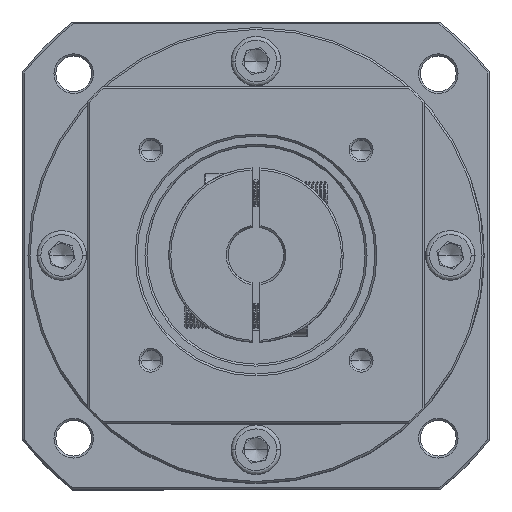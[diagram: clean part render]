
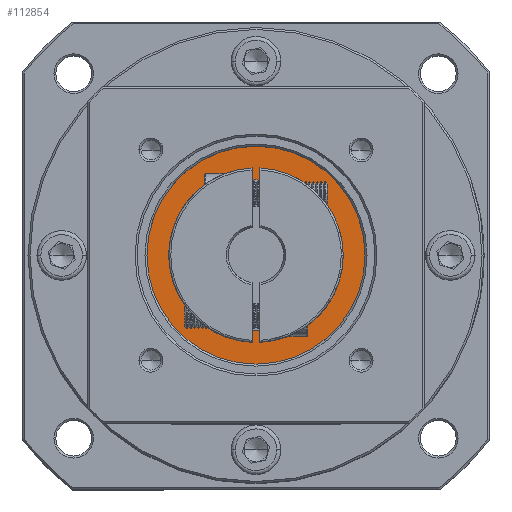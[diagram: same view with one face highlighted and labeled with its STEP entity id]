
A CAD part, top view. The second image highlights one B-rep face of the part: STEP entity #112854.
In plain terms, the highlighted planar face has unit normal (0, 0, 1).
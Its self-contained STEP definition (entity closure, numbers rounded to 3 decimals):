
#1186 = DIRECTION ( 'NONE',  ( -1., 0., 0. ) ) ;
#1551 = VERTEX_POINT ( 'NONE', #15643 ) ;
#4653 = DIRECTION ( 'NONE',  ( -1., 0., 0. ) ) ;
#7648 = FACE_BOUND ( 'NONE', #15300, .T. ) ;
#9426 = AXIS2_PLACEMENT_3D ( 'NONE', #39943, #101386, #48721 ) ;
#10443 = FACE_OUTER_BOUND ( 'NONE', #52240, .T. ) ;
#11777 = AXIS2_PLACEMENT_3D ( 'NONE', #46671, #108167, #55530 ) ;
#13496 = EDGE_CURVE ( 'NONE', #40248, #84520, #40742, .T. ) ;
#15300 = EDGE_LOOP ( 'NONE', ( #90001, #57959 ) ) ;
#15643 = CARTESIAN_POINT ( 'NONE',  ( -117.764, 35.48, 12.448 ) ) ;
#23372 = DIRECTION ( 'NONE',  ( 0., 0., 1. ) ) ;
#24941 = CIRCLE ( 'NONE', #96702, 27.5 ) ;
#29658 = EDGE_CURVE ( 'NONE', #46325, #1551, #73201, .T. ) ;
#34007 = EDGE_CURVE ( 'NONE', #1551, #46325, #24941, .T. ) ;
#39943 = CARTESIAN_POINT ( 'NONE',  ( -90.264, 35.48, 12.448 ) ) ;
#40248 = VERTEX_POINT ( 'NONE', #46914 ) ;
#40742 = CIRCLE ( 'NONE', #11777, 19. ) ;
#41569 = AXIS2_PLACEMENT_3D ( 'NONE', #75960, #23372, #84882 ) ;
#46325 = VERTEX_POINT ( 'NONE', #57347 ) ;
#46671 = CARTESIAN_POINT ( 'NONE',  ( -90.264, 35.48, 12.448 ) ) ;
#46914 = CARTESIAN_POINT ( 'NONE',  ( -71.264, 35.48, 12.448 ) ) ;
#48721 = DIRECTION ( 'NONE',  ( -1., 0., 0. ) ) ;
#50534 = EDGE_CURVE ( 'NONE', #84520, #40248, #73161, .T. ) ;
#52240 = EDGE_LOOP ( 'NONE', ( #92538, #55727 ) ) ;
#53823 = DIRECTION ( 'NONE',  ( 0., 0., -1. ) ) ;
#55530 = DIRECTION ( 'NONE',  ( -1., 0., 0. ) ) ;
#55727 = ORIENTED_EDGE ( 'NONE', *, *, #29658, .T. ) ;
#57313 = DIRECTION ( 'NONE',  ( 0., 0., 1. ) ) ;
#57347 = CARTESIAN_POINT ( 'NONE',  ( -62.764, 35.48, 12.448 ) ) ;
#57959 = ORIENTED_EDGE ( 'NONE', *, *, #13496, .T. ) ;
#58299 = AXIS2_PLACEMENT_3D ( 'NONE', #106486, #53823, #1186 ) ;
#73161 = CIRCLE ( 'NONE', #58299, 19. ) ;
#73201 = CIRCLE ( 'NONE', #9426, 27.5 ) ;
#75960 = CARTESIAN_POINT ( 'NONE',  ( -90.264, 35.48, 12.448 ) ) ;
#84520 = VERTEX_POINT ( 'NONE', #89301 ) ;
#84882 = DIRECTION ( 'NONE',  ( 1., 0., 0. ) ) ;
#89301 = CARTESIAN_POINT ( 'NONE',  ( -109.264, 35.48, 12.448 ) ) ;
#90001 = ORIENTED_EDGE ( 'NONE', *, *, #50534, .T. ) ;
#92538 = ORIENTED_EDGE ( 'NONE', *, *, #34007, .T. ) ;
#93286 = PLANE ( 'NONE',  #41569 ) ;
#96702 = AXIS2_PLACEMENT_3D ( 'NONE', #109875, #57313, #4653 ) ;
#101386 = DIRECTION ( 'NONE',  ( 0., 0., 1. ) ) ;
#106486 = CARTESIAN_POINT ( 'NONE',  ( -90.264, 35.48, 12.448 ) ) ;
#108167 = DIRECTION ( 'NONE',  ( 0., 0., -1. ) ) ;
#109875 = CARTESIAN_POINT ( 'NONE',  ( -90.264, 35.48, 12.448 ) ) ;
#112854 = ADVANCED_FACE ( 'NONE', ( #10443, #7648 ), #93286, .T. ) ;
